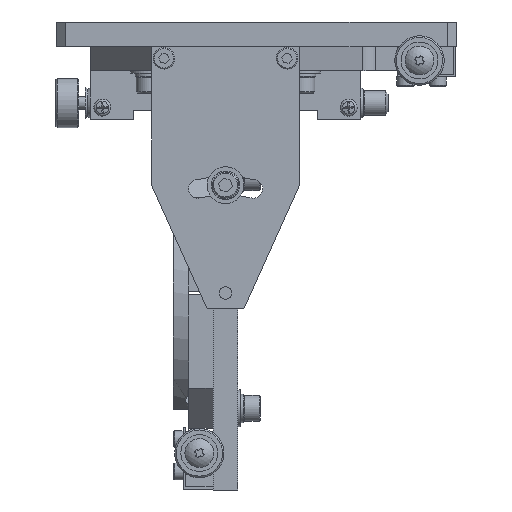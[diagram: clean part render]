
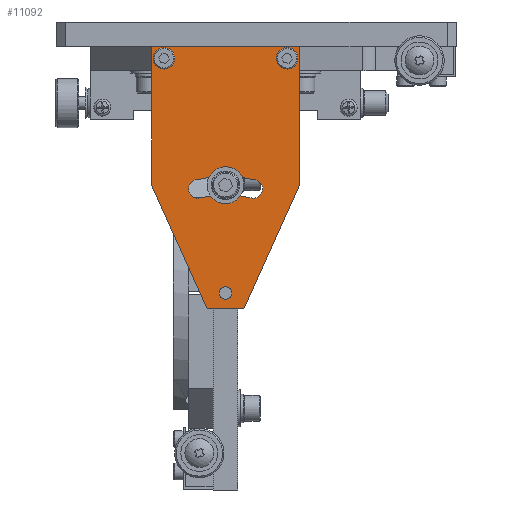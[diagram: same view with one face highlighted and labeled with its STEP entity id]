
A CAD part, front view. The second image highlights one B-rep face of the part: STEP entity #11092.
In plain terms, the highlighted planar face has unit normal (0, -1, 0).
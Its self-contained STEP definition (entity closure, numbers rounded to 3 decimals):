
#342 = VERTEX_POINT ( 'NONE', #679 ) ;
#425 = CARTESIAN_POINT ( 'NONE',  ( -6., -48., -93. ) ) ;
#532 = EDGE_CURVE ( 'NONE', #3602, #1756, #10947, .T. ) ;
#679 = CARTESIAN_POINT ( 'NONE',  ( -6., -48., -93. ) ) ;
#860 = AXIS2_PLACEMENT_3D ( 'NONE', #9085, #5326, #23141 ) ;
#1152 = FACE_OUTER_BOUND ( 'NONE', #18593, .T. ) ;
#1200 = DIRECTION ( 'NONE',  ( 0., -1., 0. ) ) ;
#1724 = EDGE_CURVE ( 'NONE', #13037, #6492, #2169, .T. ) ;
#1756 = VERTEX_POINT ( 'NONE', #10492 ) ;
#2012 = CIRCLE ( 'NONE', #15564, 38. ) ;
#2041 = AXIS2_PLACEMENT_3D ( 'NONE', #18297, #1200, #22065 ) ;
#2046 = FACE_BOUND ( 'NONE', #21271, .T. ) ;
#2169 = LINE ( 'NONE', #8822, #8192 ) ;
#2291 = VECTOR ( 'NONE', #3136, 1000. ) ;
#2381 = CARTESIAN_POINT ( 'NONE',  ( -9.059, -48., -54.193 ) ) ;
#2446 = EDGE_CURVE ( 'NONE', #15769, #8641, #8062, .T. ) ;
#2789 = CARTESIAN_POINT ( 'NONE',  ( 6., -48., -93. ) ) ;
#3136 = DIRECTION ( 'NONE',  ( -1., 0., 0. ) ) ;
#3602 = VERTEX_POINT ( 'NONE', #22226 ) ;
#4227 = EDGE_CURVE ( 'NONE', #5712, #342, #20613, .T. ) ;
#4278 = DIRECTION ( 'NONE',  ( 1., 0., 0. ) ) ;
#4337 = DIRECTION ( 'NONE',  ( 1., 0., 0. ) ) ;
#5013 = VECTOR ( 'NONE', #13955, 1000. ) ;
#5326 = DIRECTION ( 'NONE',  ( 0., 1., 0. ) ) ;
#5583 = ORIENTED_EDGE ( 'NONE', *, *, #4227, .F. ) ;
#5712 = VERTEX_POINT ( 'NONE', #2789 ) ;
#5795 = CARTESIAN_POINT ( 'NONE',  ( -9.835, -48., -51.295 ) ) ;
#6011 = VERTEX_POINT ( 'NONE', #11338 ) ;
#6084 = AXIS2_PLACEMENT_3D ( 'NONE', #2381, #23914, #23830 ) ;
#6203 = CARTESIAN_POINT ( 'NONE',  ( -24., -48., -53. ) ) ;
#6223 = LINE ( 'NONE', #425, #5013 ) ;
#6492 = VERTEX_POINT ( 'NONE', #9344 ) ;
#6639 = EDGE_LOOP ( 'NONE', ( #6794 ) ) ;
#6662 = DIRECTION ( 'NONE',  ( 0., 0., 1. ) ) ;
#6794 = ORIENTED_EDGE ( 'NONE', *, *, #13199, .T. ) ;
#6855 = EDGE_CURVE ( 'NONE', #15425, #5712, #14760, .T. ) ;
#7031 = CARTESIAN_POINT ( 'NONE',  ( 24., -48., -53. ) ) ;
#7124 = CIRCLE ( 'NONE', #2041, 32. ) ;
#7382 = CARTESIAN_POINT ( 'NONE',  ( -8.282, -48., -57.09 ) ) ;
#7911 = ORIENTED_EDGE ( 'NONE', *, *, #6855, .F. ) ;
#7945 = DIRECTION ( 'NONE',  ( 0., 1., 0. ) ) ;
#8062 = CIRCLE ( 'NONE', #6084, 3. ) ;
#8176 = VERTEX_POINT ( 'NONE', #17219 ) ;
#8192 = VECTOR ( 'NONE', #6662, 1000. ) ;
#8553 = LINE ( 'NONE', #23463, #16065 ) ;
#8641 = VERTEX_POINT ( 'NONE', #5795 ) ;
#8822 = CARTESIAN_POINT ( 'NONE',  ( -24., -48., -53. ) ) ;
#9085 = CARTESIAN_POINT ( 'NONE',  ( 0., -48., -88. ) ) ;
#9344 = CARTESIAN_POINT ( 'NONE',  ( -24., -48., -8. ) ) ;
#9716 = EDGE_CURVE ( 'NONE', #21409, #21409, #19877, .T. ) ;
#10053 = CARTESIAN_POINT ( 'NONE',  ( 24., -48., -53. ) ) ;
#10492 = CARTESIAN_POINT ( 'NONE',  ( 8.282, -48., -57.09 ) ) ;
#10552 = VECTOR ( 'NONE', #15335, 1000. ) ;
#10947 = CIRCLE ( 'NONE', #19853, 3. ) ;
#10974 = DIRECTION ( 'NONE',  ( 1., 0., 0. ) ) ;
#11092 = ADVANCED_FACE ( 'NONE', ( #13475, #16502, #2046, #1152, #23444 ), #16867, .F. ) ;
#11338 = CARTESIAN_POINT ( 'NONE',  ( 24., -48., -8. ) ) ;
#12316 = DIRECTION ( 'NONE',  ( 0., 1., 0. ) ) ;
#12906 = ORIENTED_EDGE ( 'NONE', *, *, #21083, .T. ) ;
#13037 = VERTEX_POINT ( 'NONE', #6203 ) ;
#13199 = EDGE_CURVE ( 'NONE', #8176, #8176, #21551, .T. ) ;
#13308 = CARTESIAN_POINT ( 'NONE',  ( 6., -48., -93. ) ) ;
#13350 = ORIENTED_EDGE ( 'NONE', *, *, #23225, .T. ) ;
#13388 = ORIENTED_EDGE ( 'NONE', *, *, #16024, .F. ) ;
#13475 = FACE_BOUND ( 'NONE', #20942, .T. ) ;
#13537 = VERTEX_POINT ( 'NONE', #23971 ) ;
#13955 = DIRECTION ( 'NONE',  ( -0.41, 0., 0.912 ) ) ;
#14005 = EDGE_CURVE ( 'NONE', #6492, #6011, #8553, .T. ) ;
#14219 = DIRECTION ( 'NONE',  ( 1., 0., 0. ) ) ;
#14303 = LINE ( 'NONE', #7031, #19739 ) ;
#14448 = ORIENTED_EDGE ( 'NONE', *, *, #2446, .T. ) ;
#14760 = LINE ( 'NONE', #13308, #10552 ) ;
#14881 = CARTESIAN_POINT ( 'NONE',  ( 9.059, -48., -54.193 ) ) ;
#15335 = DIRECTION ( 'NONE',  ( -0.41, 0., -0.912 ) ) ;
#15425 = VERTEX_POINT ( 'NONE', #10053 ) ;
#15564 = AXIS2_PLACEMENT_3D ( 'NONE', #19713, #23254, #23353 ) ;
#15769 = VERTEX_POINT ( 'NONE', #7382 ) ;
#16024 = EDGE_CURVE ( 'NONE', #6011, #15425, #14303, .T. ) ;
#16056 = EDGE_CURVE ( 'NONE', #1756, #15769, #7124, .T. ) ;
#16065 = VECTOR ( 'NONE', #4278, 1000. ) ;
#16257 = ORIENTED_EDGE ( 'NONE', *, *, #23895, .F. ) ;
#16501 = CARTESIAN_POINT ( 'NONE',  ( -6., -48., -93. ) ) ;
#16502 = FACE_BOUND ( 'NONE', #6639, .T. ) ;
#16703 = DIRECTION ( 'NONE',  ( 0., 1., 0. ) ) ;
#16732 = CARTESIAN_POINT ( 'NONE',  ( 22., -48., -12. ) ) ;
#16867 = PLANE ( 'NONE',  #23630 ) ;
#17055 = ORIENTED_EDGE ( 'NONE', *, *, #14005, .F. ) ;
#17123 = AXIS2_PLACEMENT_3D ( 'NONE', #19542, #7945, #4337 ) ;
#17219 = CARTESIAN_POINT ( 'NONE',  ( -18., -48., -12. ) ) ;
#17688 = ORIENTED_EDGE ( 'NONE', *, *, #16056, .T. ) ;
#18297 = CARTESIAN_POINT ( 'NONE',  ( 0., -48., -88. ) ) ;
#18371 = DIRECTION ( 'NONE',  ( 0., 0., -1. ) ) ;
#18593 = EDGE_LOOP ( 'NONE', ( #13388, #17055, #24666, #16257, #5583, #7911 ) ) ;
#18760 = DIRECTION ( 'NONE',  ( 0., 1., 0. ) ) ;
#18964 = AXIS2_PLACEMENT_3D ( 'NONE', #23842, #12316, #14219 ) ;
#19517 = ORIENTED_EDGE ( 'NONE', *, *, #9716, .T. ) ;
#19542 = CARTESIAN_POINT ( 'NONE',  ( 20., -48., -12. ) ) ;
#19713 = CARTESIAN_POINT ( 'NONE',  ( 0., -48., -88. ) ) ;
#19739 = VECTOR ( 'NONE', #18371, 1000. ) ;
#19853 = AXIS2_PLACEMENT_3D ( 'NONE', #14881, #18760, #24820 ) ;
#19877 = CIRCLE ( 'NONE', #17123, 2. ) ;
#20613 = LINE ( 'NONE', #16501, #2291 ) ;
#20942 = EDGE_LOOP ( 'NONE', ( #19517 ) ) ;
#21083 = EDGE_CURVE ( 'NONE', #13537, #13537, #23620, .T. ) ;
#21196 = ORIENTED_EDGE ( 'NONE', *, *, #532, .T. ) ;
#21271 = EDGE_LOOP ( 'NONE', ( #12906 ) ) ;
#21409 = VERTEX_POINT ( 'NONE', #16732 ) ;
#21551 = CIRCLE ( 'NONE', #18964, 2. ) ;
#21763 = EDGE_LOOP ( 'NONE', ( #14448, #13350, #21196, #17688 ) ) ;
#22065 = DIRECTION ( 'NONE',  ( 1., 0., 0. ) ) ;
#22226 = CARTESIAN_POINT ( 'NONE',  ( 9.835, -48., -51.295 ) ) ;
#23141 = DIRECTION ( 'NONE',  ( 1., 0., 0. ) ) ;
#23225 = EDGE_CURVE ( 'NONE', #8641, #3602, #2012, .T. ) ;
#23254 = DIRECTION ( 'NONE',  ( 0., 1., 0. ) ) ;
#23353 = DIRECTION ( 'NONE',  ( 1., 0., 0. ) ) ;
#23444 = FACE_BOUND ( 'NONE', #21763, .T. ) ;
#23463 = CARTESIAN_POINT ( 'NONE',  ( -24., -48., -8. ) ) ;
#23620 = CIRCLE ( 'NONE', #860, 2.05 ) ;
#23630 = AXIS2_PLACEMENT_3D ( 'NONE', #24634, #16703, #10974 ) ;
#23830 = DIRECTION ( 'NONE',  ( 1., 0., 0. ) ) ;
#23842 = CARTESIAN_POINT ( 'NONE',  ( -20., -48., -12. ) ) ;
#23895 = EDGE_CURVE ( 'NONE', #342, #13037, #6223, .T. ) ;
#23914 = DIRECTION ( 'NONE',  ( 0., 1., 0. ) ) ;
#23971 = CARTESIAN_POINT ( 'NONE',  ( 2.05, -48., -88. ) ) ;
#24634 = CARTESIAN_POINT ( 'NONE',  ( -24., -48., -8. ) ) ;
#24666 = ORIENTED_EDGE ( 'NONE', *, *, #1724, .F. ) ;
#24820 = DIRECTION ( 'NONE',  ( 1., 0., 0. ) ) ;
